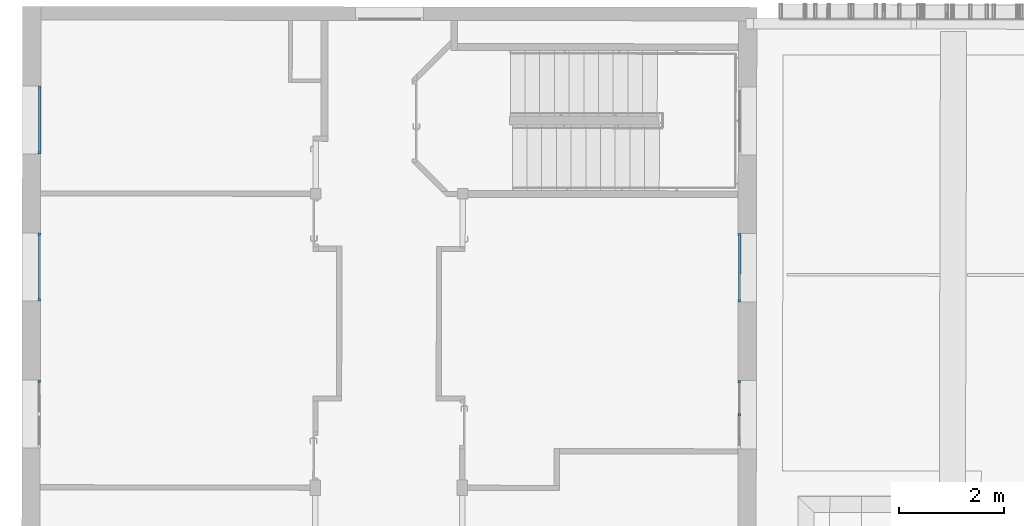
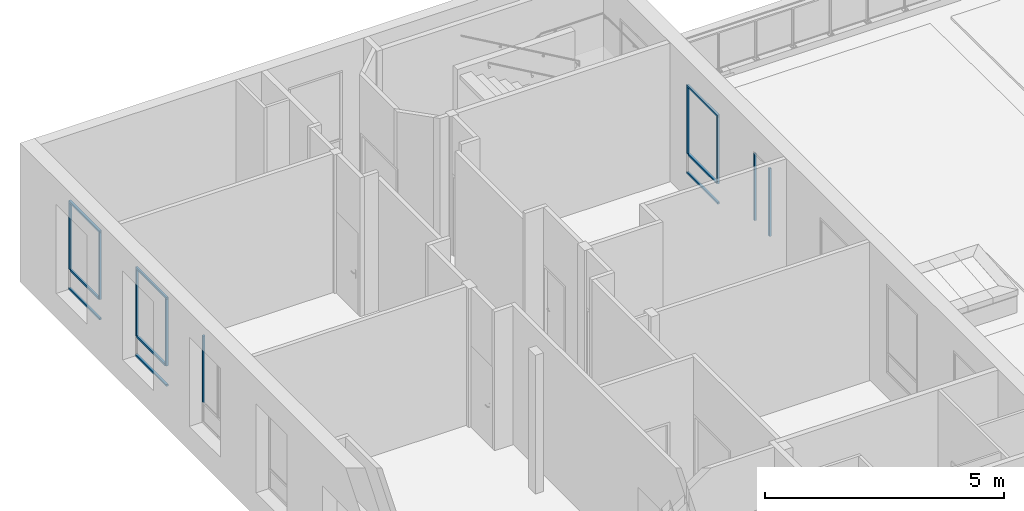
# One storey, part 9 of 101: 18 members, 5 elements without a shape of their own.
"""IFC2X3 building model written with IfcOpenShell, lengths in metres."""

from ifc_helpers import new_model, entity, si_unit, converted_unit, derived_unit, direction, frame, frame_2d, origin, origin_2d_with_axis, place, context, subcontext, project, spatial, rectangle, extrude, source, transform, mapped, material, type_object, type_shapes, element, aggregate, save


model = new_model("IFC2X3")

# Units and contexts
model_context = context("Model", 3, precision=1e-05, world=origin(), true_north=direction((6.123233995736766e-17, 1.0)))
body_context = subcontext(model_context, "Body", "Model", "MODEL_VIEW")
ifc_project = project(units=[si_unit("LENGTHUNIT", "METRE"), si_unit("AREAUNIT", "SQUARE_METRE"), converted_unit("PLANEANGLEUNIT", "DEGREE", entity("IfcPlaneAngleMeasure", 0.017453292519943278), si_unit("PLANEANGLEUNIT", "RADIAN"), dimensions=[0, 0, 0, 0, 0, 0, 0]), derived_unit("THERMALTRANSMITTANCEUNIT", [(si_unit("MASSUNIT", "GRAM", prefix="KILO"), 1), (si_unit("THERMODYNAMICTEMPERATUREUNIT", "KELVIN"), -1), (si_unit("TIMEUNIT", "SECOND"), -3)])], contexts=[model_context])

# Site, building, storey
site_placement = place(None, frame((1253.6752467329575, 2072.143113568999, 91.49999999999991), z_axis=(0.0, 0.0, 1.0), x_axis=(0.7237211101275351, 0.6900925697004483, 0.0)))
site = spatial("IfcSite", under=ifc_project, at=site_placement, Name="Surface", CompositionType="ELEMENT")
building_placement = place(site_placement, origin())
building = spatial("IfcBuilding", under=site, at=building_placement, CompositionType="ELEMENT")
storey_placement = place(building_placement, origin())
storey = spatial("IfcBuildingStorey", under=building, at=storey_placement, Name="0- Rdc", CompositionType="ELEMENT", Elevation=-5.764692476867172e-13)

# Curtain wall, member
curtain_wall_type = type_object("IfcCurtainWallType", Name="Mur-rideau:Menuiserie Ext 1F+1OB VERTIC", PredefinedType="NOTDEFINED")
curtain_wall_1_placement = place(storey_placement, origin())
curtain_wall_1 = element("IfcCurtainWall", 1, at=curtain_wall_1_placement, inside=storey, type_object=curtain_wall_type, Name="Mur-rideau:Menuiserie Ext 1F+1OB VERTIC", ObjectType="Mur-rideau:Menuiserie Ext 1F+1OB VERTIC")
ifc_material_1 = material(Name="OMD_Aluminium Men Ext")
member_type_1 = type_object("IfcMemberType", Name="Meneau rectangulaire:50x50", PredefinedType="MULLION", material=ifc_material_1)
shared_shape_1 = source(origin(), body_context, "Body", "SweptSolid", [
    extrude(rectangle(XDim=0.05, YDim=0.049999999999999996, at=origin_2d_with_axis()), frame((-0.025, 0.0, -1.2996959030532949), z_axis=(0.0, 0.0, 1.0), x_axis=(-1.0, 0.0, 0.0)), (0.0, 0.0, 1.0), 1.2996959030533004),
])
type_shapes(member_type_1, [shared_shape_1])
member_1_placement = place(curtain_wall_1_placement, frame((163.4295500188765, 24.37951253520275, 2.8999999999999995), z_axis=(0.6911544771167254, 0.7227070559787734, 0.0), x_axis=(0.0, 0.0, 1.0)))
member_1 = element("IfcMember", 2, at=member_1_placement, type_object=member_type_1, material=ifc_material_1, Name="Meneau rectangulaire:50x50", ObjectType="Meneau rectangulaire:50x50", context=body_context, shape_type="MappedRepresentation", body=[
    mapped(shared_shape_1, transform((0.0, 0.0, 0.0), scale=1.0)),
])

curtain_wall_2_placement = place(storey_placement, origin())
curtain_wall_2 = element("IfcCurtainWall", 3, at=curtain_wall_2_placement, inside=storey, type_object=curtain_wall_type, Name="Mur-rideau:Menuiserie Ext 1F+1OB VERTIC", ObjectType="Mur-rideau:Menuiserie Ext 1F+1OB VERTIC")
member_2_placement = place(curtain_wall_2_placement, frame((165.36430469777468, 26.403549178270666, 2.8999999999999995), z_axis=(0.6911544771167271, 0.7227070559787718, 0.0), x_axis=(0.0, 0.0, 1.0)))
member_2 = element("IfcMember", 4, at=member_2_placement, type_object=member_type_1, material=ifc_material_1, Name="Meneau rectangulaire:50x50", ObjectType="Meneau rectangulaire:50x50", context=body_context, shape_type="MappedRepresentation", body=[
    mapped(shared_shape_1, transform((0.0, 0.0, 0.0), scale=1.0)),
])

# Member
member_type_2 = type_object("IfcMemberType", Name="Meneau rectangulaire:50x50", PredefinedType="MULLION", material=ifc_material_1)
shared_shape_2 = source(origin(), body_context, "Body", "SweptSolid", [
    extrude(rectangle(XDim=0.05, YDim=0.05, at=origin_2d_with_axis()), frame((-0.025, 0.0, -1.2996959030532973), z_axis=(0.0, 0.0, 1.0), x_axis=(-1.0, 0.0, 0.0)), (0.0, 0.0, 1.0), 1.2996959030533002),
])
type_shapes(member_type_2, [shared_shape_2])
member_3_placement = place(curtain_wall_1_placement, frame((162.53125937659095, 23.440213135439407, 0.62), z_axis=(-0.6911544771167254, -0.7227070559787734, 0.0), x_axis=(0.0, 0.0, -1.0)))
member_3 = element("IfcMember", 5, at=member_3_placement, type_object=member_type_2, material=ifc_material_1, Name="Meneau rectangulaire:50x50", ObjectType="Meneau rectangulaire:50x50", context=body_context, shape_type="MappedRepresentation", body=[
    mapped(shared_shape_2, transform((0.0, 0.0, 0.0), scale=1.0)),
])

member_4_placement = place(curtain_wall_2_placement, frame((164.46601405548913, 25.46424977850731, 0.62), z_axis=(-0.6911544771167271, -0.7227070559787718, 0.0), x_axis=(0.0, 0.0, -1.0)))
member_4 = element("IfcMember", 6, at=member_4_placement, type_object=member_type_2, material=ifc_material_1, Name="Meneau rectangulaire:50x50", ObjectType="Meneau rectangulaire:50x50", context=body_context, shape_type="MappedRepresentation", body=[
    mapped(shared_shape_2, transform((0.0, 0.0, 0.0), scale=1.0)),
])

member_type_3 = type_object("IfcMemberType", Name="Meneau rectangulaire:50x50", PredefinedType="MULLION", material=ifc_material_1)
shared_shape_3 = source(origin(), body_context, "Body", "SweptSolid", [
    extrude(rectangle(XDim=0.05, YDim=0.049999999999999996, at=origin_2d_with_axis()), frame((-0.025, 0.0, -1.7099999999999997), z_axis=(0.0, 0.0, 1.0), x_axis=(-1.0, 0.0, 0.0)), (0.0, 0.0, 1.0), 1.7099999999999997),
])
type_shapes(member_type_3, [shared_shape_3])
member_5_placement = place(curtain_wall_1_placement, frame((162.53125937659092, 23.440213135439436, 2.8499999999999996), z_axis=(0.0, 0.0, 1.0), x_axis=(-0.6911544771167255, -0.7227070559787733, 0.0)))
member_5 = element("IfcMember", 7, at=member_5_placement, type_object=member_type_3, material=ifc_material_1, Name="Meneau rectangulaire:50x50", ObjectType="Meneau rectangulaire:50x50", context=body_context, shape_type="MappedRepresentation", body=[
    mapped(shared_shape_3, transform((0.0, 0.0, 0.0), scale=1.0)),
])

member_6_placement = place(curtain_wall_2_placement, frame((164.46601405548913, 25.464249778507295, 2.8499999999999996), z_axis=(0.0, 0.0, 1.0), x_axis=(-0.6911544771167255, -0.7227070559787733, 0.0)))
member_6 = element("IfcMember", 8, at=member_6_placement, type_object=member_type_3, material=ifc_material_1, Name="Meneau rectangulaire:50x50", ObjectType="Meneau rectangulaire:50x50", context=body_context, shape_type="MappedRepresentation", body=[
    mapped(shared_shape_3, transform((0.0, 0.0, 0.0), scale=1.0)),
])

# Curtain wall, member
curtain_wall_3_placement = place(storey_placement, origin())
curtain_wall_3 = element("IfcCurtainWall", 9, at=curtain_wall_3_placement, inside=storey, type_object=curtain_wall_type, Name="Mur-rideau:Menuiserie Ext 1F+1OB VERTIC", ObjectType="Mur-rideau:Menuiserie Ext 1F+1OB VERTIC")
member_type_4 = type_object("IfcMemberType", Name="Meneau rectangulaire:50x50", PredefinedType="MULLION", material=ifc_material_1)
shared_shape_4 = source(origin(), body_context, "Body", "SweptSolid", [
    extrude(rectangle(XDim=0.05, YDim=0.049999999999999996, at=origin_2d_with_axis()), frame((-0.025, 0.0, -1.7099999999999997), z_axis=(0.0, 0.0, 1.0), x_axis=(-1.0, 0.0, 0.0)), (0.0, 0.0, 1.0), 1.7099999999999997),
])
type_shapes(member_type_4, [shared_shape_4])
member_7_placement = place(curtain_wall_3_placement, frame((161.49479533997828, 22.355475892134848, 1.14), z_axis=(0.0, 0.0, -1.0), x_axis=(0.6911544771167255, 0.7227070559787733, 0.0)))
member_7 = element("IfcMember", 10, at=member_7_placement, type_object=member_type_4, material=ifc_material_1, Name="Meneau rectangulaire:50x50", ObjectType="Meneau rectangulaire:50x50", context=body_context, shape_type="MappedRepresentation", body=[
    mapped(shared_shape_4, transform((0.0, 0.0, 0.0), scale=1.0)),
])
aggregate(curtain_wall_3, [member_7])

# Member
member_8_placement = place(curtain_wall_1_placement, frame((163.4295500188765, 24.37951253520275, 1.14), z_axis=(0.0, 0.0, -1.0), x_axis=(0.6911544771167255, 0.7227070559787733, 0.0)))
member_8 = element("IfcMember", 11, at=member_8_placement, type_object=member_type_4, material=ifc_material_1, Name="Meneau rectangulaire:50x50", ObjectType="Meneau rectangulaire:50x50", context=body_context, shape_type="MappedRepresentation", body=[
    mapped(shared_shape_4, transform((0.0, 0.0, 0.0), scale=1.0)),
])

member_9_placement = place(curtain_wall_2_placement, frame((165.36430469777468, 26.40354917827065, 1.14), z_axis=(0.0, 0.0, -1.0), x_axis=(0.6911544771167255, 0.7227070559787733, 0.0)))
member_9 = element("IfcMember", 12, at=member_9_placement, type_object=member_type_4, material=ifc_material_1, Name="Meneau rectangulaire:50x50", ObjectType="Meneau rectangulaire:50x50", context=body_context, shape_type="MappedRepresentation", body=[
    mapped(shared_shape_4, transform((0.0, 0.0, 0.0), scale=1.0)),
])

member_type_5 = type_object("IfcMemberType", Name="Meneau rectangulaire:50x50", PredefinedType="MULLION", material=ifc_material_1)
shared_shape_5 = source(origin(), body_context, "Body", "SweptSolid", [
    extrude(rectangle(XDim=0.05, YDim=0.05, at=frame_2d((0.0, -1.734723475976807e-18), x_axis=(1.0, 0.0))), frame((0.0, 0.0, -1.1996959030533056), z_axis=(0.0, 0.0, 1.0), x_axis=(-1.0, 0.0, 0.0)), (0.0, 0.0, 1.0), 1.1996959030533),
])
type_shapes(member_type_5, [shared_shape_5])
member_10_placement = place(curtain_wall_1_placement, frame((163.39499229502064, 24.3433771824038, 1.14), z_axis=(0.6911544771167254, 0.7227070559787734, 0.0), x_axis=(0.0, 0.0, 1.0)))
member_10 = element("IfcMember", 13, at=member_10_placement, type_object=member_type_5, material=ifc_material_1, Name="Meneau rectangulaire:50x50", ObjectType="Meneau rectangulaire:50x50", context=body_context, shape_type="MappedRepresentation", body=[
    mapped(shared_shape_5, transform((0.0, 0.0, 0.0), scale=1.0)),
])

aggregate(curtain_wall_1, [member_1, member_3, member_5, member_8, member_10])

member_11_placement = place(curtain_wall_2_placement, frame((165.32974697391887, 26.367413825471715, 1.14), z_axis=(0.6911544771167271, 0.7227070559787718, 0.0), x_axis=(0.0, 0.0, 1.0)))
member_11 = element("IfcMember", 14, at=member_11_placement, type_object=member_type_5, material=ifc_material_1, Name="Meneau rectangulaire:50x50", ObjectType="Meneau rectangulaire:50x50", context=body_context, shape_type="MappedRepresentation", body=[
    mapped(shared_shape_5, transform((0.0, 0.0, 0.0), scale=1.0)),
])

aggregate(curtain_wall_2, [member_2, member_4, member_6, member_9, member_11])

# Curtain wall, members
curtain_wall_4_placement = place(storey_placement, origin())
curtain_wall_4 = element("IfcCurtainWall", 15, at=curtain_wall_4_placement, inside=storey, type_object=curtain_wall_type, Name="Mur-rideau:Menuiserie Ext 1F+1OB VERTIC", ObjectType="Mur-rideau:Menuiserie Ext 1F+1OB VERTIC")
member_type_6 = type_object("IfcMemberType", Name="Meneau rectangulaire:50x50", PredefinedType="MULLION", material=ifc_material_1)
shared_shape_6 = source(origin(), body_context, "Body", "SweptSolid", [
    extrude(rectangle(XDim=0.05, YDim=0.05, at=origin_2d_with_axis()), frame((-0.025, 0.0, -1.2996959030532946), z_axis=(0.0, 0.0, 1.0), x_axis=(-1.0, 0.0, 0.0)), (0.0, 0.0, 1.0), 1.299695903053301),
])
type_shapes(member_type_6, [shared_shape_6])
member_12_placement = place(curtain_wall_4_placement, frame((173.0738925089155, 15.166072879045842, 2.8999999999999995), z_axis=(0.6909838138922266, 0.7228702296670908, 0.0), x_axis=(0.0, 0.0, 1.0)))
member_12 = element("IfcMember", 16, at=member_12_placement, type_object=member_type_6, material=ifc_material_1, Name="Meneau rectangulaire:50x50", ObjectType="Meneau rectangulaire:50x50", context=body_context, shape_type="MappedRepresentation", body=[
    mapped(shared_shape_6, transform((0.0, 0.0, 0.0), scale=1.0)),
])
member_type_7 = type_object("IfcMemberType", Name="Meneau rectangulaire:50x50", PredefinedType="MULLION", material=ifc_material_1)
shared_shape_7 = source(origin(), body_context, "Body", "SweptSolid", [
    extrude(rectangle(XDim=0.05, YDim=0.05, at=origin_2d_with_axis()), frame((-0.025, 0.0, -1.299695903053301), z_axis=(0.0, 0.0, 1.0), x_axis=(-1.0, 0.0, 0.0)), (0.0, 0.0, 1.0), 1.299695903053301),
])
type_shapes(member_type_7, [shared_shape_7])
member_13_placement = place(curtain_wall_4_placement, frame((172.17582367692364, 14.226561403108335, 0.62), z_axis=(-0.6909838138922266, -0.7228702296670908, 0.0), x_axis=(0.0, 0.0, -1.0)))
member_13 = element("IfcMember", 17, at=member_13_placement, type_object=member_type_7, material=ifc_material_1, Name="Meneau rectangulaire:50x50", ObjectType="Meneau rectangulaire:50x50", context=body_context, shape_type="MappedRepresentation", body=[
    mapped(shared_shape_7, transform((0.0, 0.0, 0.0), scale=1.0)),
])
member_type_8 = type_object("IfcMemberType", Name="Meneau rectangulaire:50x50", PredefinedType="MULLION", material=ifc_material_1)
shared_shape_8 = source(origin(), body_context, "Body", "SweptSolid", [
    extrude(rectangle(XDim=0.05, YDim=0.05000000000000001, at=origin_2d_with_axis()), frame((-0.025, 0.0, -1.7099999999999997), z_axis=(0.0, 0.0, 1.0), x_axis=(-1.0, 0.0, 0.0)), (0.0, 0.0, 1.0), 1.7099999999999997),
])
type_shapes(member_type_8, [shared_shape_8])
member_14_placement = place(curtain_wall_4_placement, frame((172.17582367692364, 14.22656140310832, 2.8499999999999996), z_axis=(0.0, 0.0, 1.0), x_axis=(-0.6909838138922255, -0.722870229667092, 0.0)))
member_14 = element("IfcMember", 18, at=member_14_placement, type_object=member_type_8, material=ifc_material_1, Name="Meneau rectangulaire:50x50", ObjectType="Meneau rectangulaire:50x50", context=body_context, shape_type="MappedRepresentation", body=[
    mapped(shared_shape_8, transform((0.0, 0.0, 0.0), scale=1.0)),
])
member_type_9 = type_object("IfcMemberType", Name="Meneau rectangulaire:50x50", PredefinedType="MULLION", material=ifc_material_1)
shared_shape_9 = source(origin(), body_context, "Body", "SweptSolid", [
    extrude(rectangle(XDim=0.05, YDim=0.049999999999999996, at=origin_2d_with_axis()), frame((-0.025, 0.0, -1.7099999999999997), z_axis=(0.0, 0.0, 1.0), x_axis=(-1.0, 0.0, 0.0)), (0.0, 0.0, 1.0), 1.7099999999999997),
])
type_shapes(member_type_9, [shared_shape_9])
member_15_placement = place(curtain_wall_4_placement, frame((173.07389250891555, 15.166072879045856, 1.14), z_axis=(0.0, 0.0, -1.0), x_axis=(0.6909838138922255, 0.722870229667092, 0.0)))
member_15 = element("IfcMember", 19, at=member_15_placement, type_object=member_type_9, material=ifc_material_1, Name="Meneau rectangulaire:50x50", ObjectType="Meneau rectangulaire:50x50", context=body_context, shape_type="MappedRepresentation", body=[
    mapped(shared_shape_9, transform((0.0, 0.0, 0.0), scale=1.0)),
])

# Curtain wall, member
curtain_wall_5_placement = place(storey_placement, origin())
curtain_wall_5 = element("IfcCurtainWall", 20, at=curtain_wall_5_placement, inside=storey, type_object=curtain_wall_type, Name="Mur-rideau:Menuiserie Ext 1F+1OB VERTIC", ObjectType="Mur-rideau:Menuiserie Ext 1F+1OB VERTIC")
member_16_placement = place(curtain_wall_5_placement, frame((171.13913783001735, 13.14203623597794, 1.14), z_axis=(0.0, 0.0, -1.0), x_axis=(0.6909838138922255, 0.722870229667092, 0.0)))
member_16 = element("IfcMember", 21, at=member_16_placement, type_object=member_type_9, material=ifc_material_1, Name="Meneau rectangulaire:50x50", ObjectType="Meneau rectangulaire:50x50", context=body_context, shape_type="MappedRepresentation", body=[
    mapped(shared_shape_9, transform((0.0, 0.0, 0.0), scale=1.0)),
])

# Member
member_type_10 = type_object("IfcMemberType", Name="Meneau rectangulaire:50x50", PredefinedType="MULLION", material=ifc_material_1)
shared_shape_10 = source(origin(), body_context, "Body", "SweptSolid", [
    extrude(rectangle(XDim=0.05, YDim=0.05, at=origin_2d_with_axis()), frame((0.0, 0.0, -1.1996959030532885), z_axis=(0.0, 0.0, 1.0), x_axis=(-1.0, 0.0, 0.0)), (0.0, 0.0, 1.0), 1.199695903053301),
])
type_shapes(member_type_10, [shared_shape_10])
member_17_placement = place(curtain_wall_4_placement, frame((173.03934331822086, 15.129929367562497, 1.14), z_axis=(0.6909838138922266, 0.7228702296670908, 0.0), x_axis=(0.0, 0.0, 1.0)))
member_17 = element("IfcMember", 22, at=member_17_placement, type_object=member_type_10, material=ifc_material_1, Name="Meneau rectangulaire:50x50", ObjectType="Meneau rectangulaire:50x50", context=body_context, shape_type="MappedRepresentation", body=[
    mapped(shared_shape_10, transform((0.0, 0.0, 0.0), scale=1.0)),
])

aggregate(curtain_wall_4, [member_12, member_13, member_14, member_15, member_17])

ifc_material_2 = material(Name="OMD-RAL 1015")
member_type_11 = type_object("IfcMemberType", Name="Meneau rectangulaire:50x50 beige", PredefinedType="MULLION", material=ifc_material_2)
shared_shape_11 = source(origin(), body_context, "Body", "SweptSolid", [
    extrude(rectangle(XDim=0.05, YDim=0.05, at=frame_2d((0.0, -1.734723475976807e-18), x_axis=(1.0, 0.0))), frame((0.0, 0.0, -1.7349999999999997), z_axis=(0.0, 0.0, 1.0), x_axis=(-1.0, 0.0, 0.0)), (0.0, 0.0, 1.0), 1.7349999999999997),
])
type_shapes(member_type_11, [shared_shape_11])
member_18_placement = place(curtain_wall_5_placement, frame((170.6901034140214, 12.672280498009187, 1.1149999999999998), z_axis=(0.0, 0.0, -1.0), x_axis=(0.6909838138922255, 0.722870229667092, 0.0)))
member_18 = element("IfcMember", 23, at=member_18_placement, type_object=member_type_11, material=ifc_material_2, Name="Meneau rectangulaire:50x50 beige", ObjectType="Meneau rectangulaire:50x50 beige", context=body_context, shape_type="MappedRepresentation", body=[
    mapped(shared_shape_11, transform((0.0, 0.0, 0.0), scale=1.0)),
])

aggregate(curtain_wall_5, [member_16, member_18])

save(model, "model.ifc")
